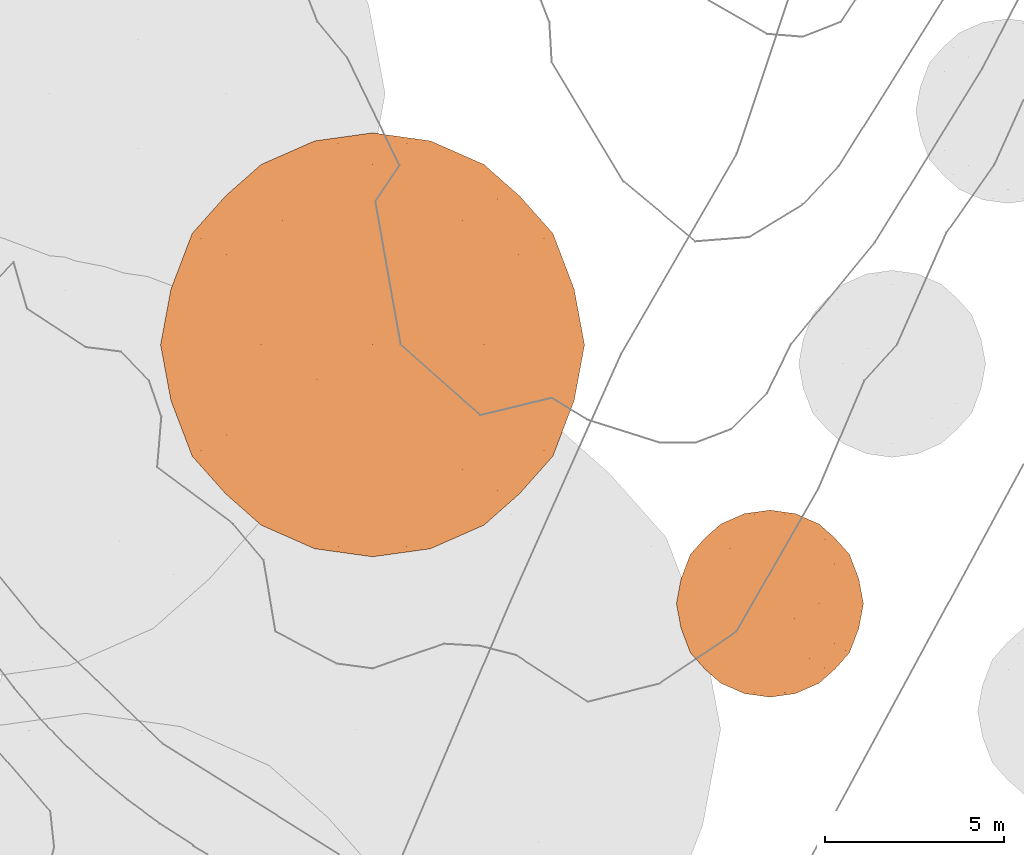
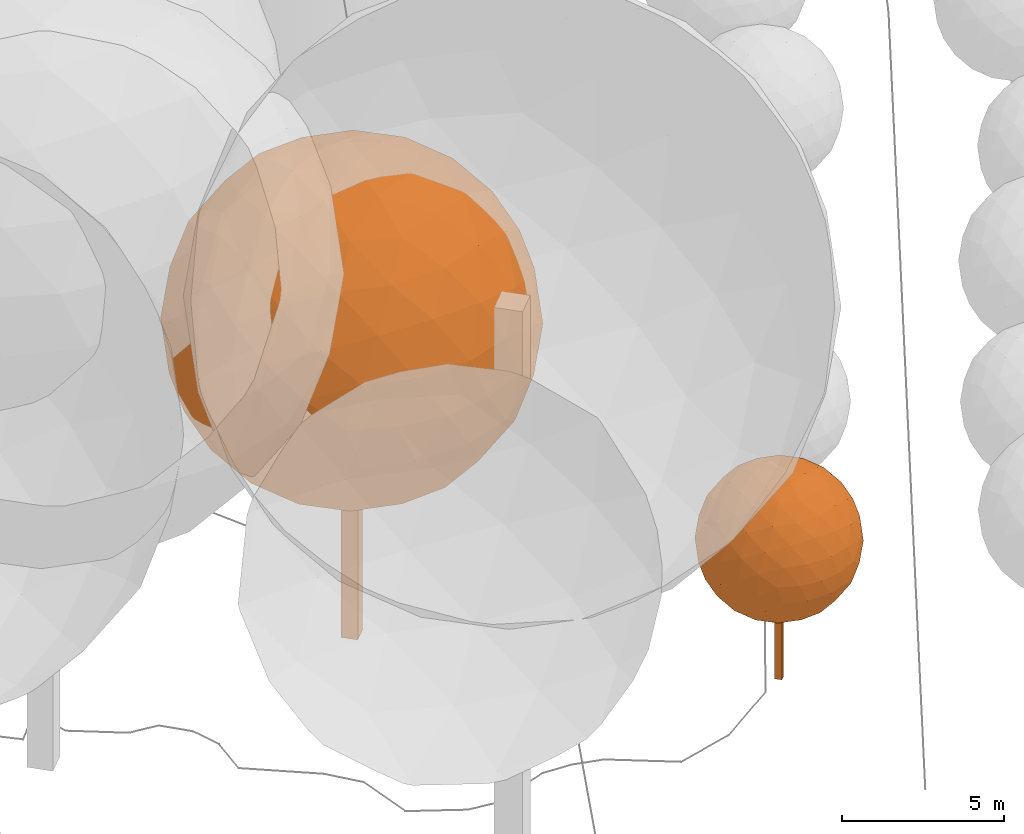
# Not in any storey, part 359 of 494: 2 proxies.
"""IFC2X3 model written with IfcOpenShell, lengths in metres."""

from ifc_helpers import new_model, si_unit, frame, origin_with_axes, place, context, subcontext, project, faceted_brep, element, save


model = new_model("IFC2X3")

# Units and contexts
model_context = context("Model", 3, precision=1e-05, world=origin_with_axes())
body_context = subcontext(model_context, "Body", "Model", "MODEL_VIEW")
ifc_project = project(units=[si_unit("AREAUNIT", "SQUARE_METRE"), si_unit("LENGTHUNIT", "METRE")], contexts=[model_context])

# Proxies
proxy_1_placement = place(None, frame((254.7557320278, 208.9557367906, 538.7556913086), z_axis=(0.0, 0.0, 1.0), x_axis=(1.0, 0.0, 0.0)))
element("IfcBuildingElementProxy", 1, at=proxy_1_placement, Name="Tree TR1 CD52", ObjectType="NOTDEFINED", context=body_context, shape_type="Brep", body=[
    faceted_brep([(0.0, 0.1659572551, 0.0), (0.1659572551, 0.0, 0.0), (0.0, -0.1659572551, 0.0), (-0.1659572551, 0.0, 0.0), (0.0, -0.1659572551, 5.2137009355), (0.1659572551, 0.0, 5.2137009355), (0.0, 0.1659572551, 5.2137009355), (-0.1659572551, 0.0, 5.2137009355)], [[[0, 1, 2]], [[2, 3, 0]], [[4, 5, 6]], [[6, 7, 4]], [[4, 7, 2]], [[2, 7, 3]], [[7, 6, 3]], [[3, 6, 0]], [[5, 4, 1]], [[1, 4, 2]], [[6, 5, 0]], [[0, 5, 1]]]),
    faceted_brep([(-1.3705023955, 2.2175194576, 5.2137009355), (-1.8085819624, 1.8301301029, 5.6324185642), (-1.1310826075, 2.2488477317, 5.8912002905), (-2.1089863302, 1.3034252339, 6.0192620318), (-1.5322682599, 1.7940109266, 6.3224606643), (-0.8055610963, 2.1089863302, 6.5171261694), (-2.2488477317, 0.677499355, 6.344783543), (-1.7940109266, 1.1087597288, 6.7459691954), (-2.2175194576, 0.0, 6.584203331), (-1.8301301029, 0.4187176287, 7.0222828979), (-1.3034252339, 0.8055610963, 7.3226872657), (-1.1087597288, 1.5322682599, 7.0077118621), (-0.4187176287, 1.8085819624, 7.0438310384), (-0.677499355, 1.1310826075, 7.4625486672), (0.0, 1.3705023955, 7.4312203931), (-0.7123649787, 2.5076294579, 5.2137009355), (-0.4235085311, 2.4792621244, 5.8989521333), (0.0, 2.6068504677, 5.2137009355), (0.0, 2.2175194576, 6.584203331), (0.4187176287, 1.8085819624, 7.0438310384), (0.8055610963, 2.1089863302, 6.5171261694), (0.4235085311, 2.4792621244, 5.8989521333), (0.7123649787, 2.5076294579, 5.2137009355), (1.1310826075, 2.2488477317, 5.8912002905), (1.3705023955, 2.2175194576, 5.2137009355), (-1.1310826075, 2.2488477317, 4.5362015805), (-0.4235085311, 2.4792621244, 4.5284497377), (-0.8055610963, 2.1089863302, 3.9102757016), (0.4235085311, 2.4792621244, 4.5284497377), (1.1310826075, 2.2488477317, 4.5362015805), (0.8055610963, 2.1089863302, 3.9102757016), (0.0, 2.2175194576, 3.84319854), (-0.4187176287, 1.8085819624, 3.3835708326), (0.4187176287, 1.8085819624, 3.3835708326), (0.0, 1.3705023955, 2.9961814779), (-1.8085819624, 1.8301301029, 4.7949833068), (-1.5322682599, 1.7940109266, 4.1049412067), (-2.1089863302, 1.3034252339, 4.4081398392), (-1.1087597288, 1.5322682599, 3.4196900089), (-0.677499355, 1.1310826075, 2.9648532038), (-1.3034252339, 0.8055610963, 3.1047146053), (-1.7940109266, 1.1087597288, 3.6814326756), (-2.2488477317, 0.677499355, 4.082618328), (-1.8301301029, 0.4187176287, 3.4051189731), (-2.2175194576, 0.0, 3.84319854), (-2.2175194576, 1.3705023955, 5.2137009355), (-2.4792621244, 0.6852511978, 4.7901924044), (-2.5076294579, 0.0, 4.5013359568), (-2.6068504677, 0.0, 5.2137009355), (-2.4792621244, 0.6852511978, 5.6372094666), (-2.5076294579, 0.0, 5.9260659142), (1.8085819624, 1.8301301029, 5.6324185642), (1.5322682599, 1.7940109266, 6.3224606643), (2.1089863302, 1.3034252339, 6.0192620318), (1.1087597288, 1.5322682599, 7.0077118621), (0.677499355, 1.1310826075, 7.4625486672), (1.3034252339, 0.8055610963, 7.3226872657), (1.7940109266, 1.1087597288, 6.7459691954), (2.2488477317, 0.677499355, 6.344783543), (1.8301301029, 0.4187176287, 7.0222828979), (2.2175194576, 0.0, 6.584203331), (0.0, 0.7123649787, 7.7213303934), (-0.6852511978, 0.4235085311, 7.6929630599), (0.0, 0.0, 7.8205514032), (-1.3705023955, 0.0, 7.4312203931), (-1.8301301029, -0.4187176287, 7.0222828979), (-1.3034252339, -0.8055610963, 7.3226872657), (-0.6852511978, -0.4235085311, 7.6929630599), (0.0, -0.7123649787, 7.7213303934), (-0.677499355, -1.1310826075, 7.4625486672), (0.0, -1.3705023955, 7.4312203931), (-2.2488477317, -0.677499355, 6.344783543), (-2.4792621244, -0.6852511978, 5.6372094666), (-2.1089863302, -1.3034252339, 6.0192620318), (-2.4792621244, -0.6852511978, 4.7901924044), (-2.2488477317, -0.677499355, 4.082618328), (-2.1089863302, -1.3034252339, 4.4081398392), (-2.2175194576, -1.3705023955, 5.2137009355), (-1.8085819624, -1.8301301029, 5.6324185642), (-1.8085819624, -1.8301301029, 4.7949833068), (-1.3705023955, -2.2175194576, 5.2137009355), (-1.8301301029, -0.4187176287, 3.4051189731), (-1.3705023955, 0.0, 2.9961814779), (-1.3034252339, -0.8055610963, 3.1047146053), (-0.6852511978, 0.4235085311, 2.7344388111), (0.0, 0.7123649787, 2.7060714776), (0.0, 0.0, 2.6068504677), (-0.6852511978, -0.4235085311, 2.7344388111), (-0.677499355, -1.1310826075, 2.9648532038), (0.0, -0.7123649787, 2.7060714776), (0.0, -1.3705023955, 2.9961814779), (0.677499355, 1.1310826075, 2.9648532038), (1.1087597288, 1.5322682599, 3.4196900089), (1.3034252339, 0.8055610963, 3.1047146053), (1.5322682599, 1.7940109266, 4.1049412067), (1.8085819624, 1.8301301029, 4.7949833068), (2.1089863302, 1.3034252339, 4.4081398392), (1.7940109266, 1.1087597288, 3.6814326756), (1.8301301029, 0.4187176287, 3.4051189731), (2.2488477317, 0.677499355, 4.082618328), (2.2175194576, 0.0, 3.84319854), (1.3705023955, -2.2175194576, 5.2137009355), (1.8085819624, -1.8301301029, 5.6324185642), (1.1310826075, -2.2488477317, 5.8912002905), (2.1089863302, -1.3034252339, 6.0192620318), (1.5322682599, -1.7940109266, 6.3224606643), (0.8055610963, -2.1089863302, 6.5171261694), (2.2488477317, -0.677499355, 6.344783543), (1.7940109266, -1.1087597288, 6.7459691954), (1.8301301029, -0.4187176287, 7.0222828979), (1.3034252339, -0.8055610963, 7.3226872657), (1.1087597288, -1.5322682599, 7.0077118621), (0.4187176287, -1.8085819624, 7.0438310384), (0.677499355, -1.1310826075, 7.4625486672), (0.7123649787, -2.5076294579, 5.2137009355), (0.4235085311, -2.4792621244, 5.8989521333), (0.0, -2.6068504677, 5.2137009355), (0.0, -2.2175194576, 6.584203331), (-0.4187176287, -1.8085819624, 7.0438310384), (-0.8055610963, -2.1089863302, 6.5171261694), (-0.4235085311, -2.4792621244, 5.8989521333), (-0.7123649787, -2.5076294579, 5.2137009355), (-1.1310826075, -2.2488477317, 5.8912002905), (1.1310826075, -2.2488477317, 4.5362015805), (0.4235085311, -2.4792621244, 4.5284497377), (0.8055610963, -2.1089863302, 3.9102757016), (-0.4235085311, -2.4792621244, 4.5284497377), (-1.1310826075, -2.2488477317, 4.5362015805), (-0.8055610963, -2.1089863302, 3.9102757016), (0.0, -2.2175194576, 3.84319854), (0.4187176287, -1.8085819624, 3.3835708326), (-0.4187176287, -1.8085819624, 3.3835708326), (1.8085819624, -1.8301301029, 4.7949833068), (1.5322682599, -1.7940109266, 4.1049412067), (2.1089863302, -1.3034252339, 4.4081398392), (1.1087597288, -1.5322682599, 3.4196900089), (0.677499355, -1.1310826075, 2.9648532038), (1.3034252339, -0.8055610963, 3.1047146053), (1.7940109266, -1.1087597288, 3.6814326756), (2.2488477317, -0.677499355, 4.082618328), (1.8301301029, -0.4187176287, 3.4051189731), (2.2175194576, -1.3705023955, 5.2137009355), (2.4792621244, -0.6852511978, 4.7901924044), (2.5076294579, 0.0, 4.5013359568), (2.6068504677, 0.0, 5.2137009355), (2.4792621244, -0.6852511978, 5.6372094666), (2.5076294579, 0.0, 5.9260659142), (0.6852511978, -0.4235085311, 7.6929630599), (1.3705023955, 0.0, 7.4312203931), (0.6852511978, 0.4235085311, 7.6929630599), (-1.5322682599, -1.7940109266, 6.3224606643), (-1.1087597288, -1.5322682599, 7.0077118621), (-1.7940109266, -1.1087597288, 6.7459691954), (-1.1087597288, -1.5322682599, 3.4196900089), (-1.5322682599, -1.7940109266, 4.1049412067), (-1.7940109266, -1.1087597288, 3.6814326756), (1.3705023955, 0.0, 2.9961814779), (0.6852511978, -0.4235085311, 2.7344388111), (0.6852511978, 0.4235085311, 2.7344388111), (2.4792621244, 0.6852511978, 5.6372094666), (2.4792621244, 0.6852511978, 4.7901924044), (2.2175194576, 1.3705023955, 5.2137009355)], [[[0, 1, 2]], [[1, 3, 4]], [[2, 4, 5]], [[1, 4, 2]], [[3, 6, 7]], [[6, 8, 9]], [[7, 9, 10]], [[6, 9, 7]], [[5, 11, 12]], [[11, 10, 13]], [[12, 13, 14]], [[11, 13, 12]], [[3, 7, 4]], [[7, 10, 11]], [[4, 11, 5]], [[7, 11, 4]], [[0, 2, 15]], [[2, 5, 16]], [[15, 16, 17]], [[2, 16, 15]], [[5, 12, 18]], [[12, 14, 19]], [[18, 19, 20]], [[12, 19, 18]], [[17, 21, 22]], [[21, 20, 23]], [[22, 23, 24]], [[21, 23, 22]], [[5, 18, 16]], [[18, 20, 21]], [[16, 21, 17]], [[18, 21, 16]], [[0, 15, 25]], [[15, 17, 26]], [[25, 26, 27]], [[15, 26, 25]], [[17, 22, 28]], [[22, 24, 29]], [[28, 29, 30]], [[22, 29, 28]], [[27, 31, 32]], [[31, 30, 33]], [[32, 33, 34]], [[31, 33, 32]], [[17, 28, 26]], [[28, 30, 31]], [[26, 31, 27]], [[28, 31, 26]], [[0, 25, 35]], [[25, 27, 36]], [[35, 36, 37]], [[25, 36, 35]], [[27, 32, 38]], [[32, 34, 39]], [[38, 39, 40]], [[32, 39, 38]], [[37, 41, 42]], [[41, 40, 43]], [[42, 43, 44]], [[41, 43, 42]], [[27, 38, 36]], [[38, 40, 41]], [[36, 41, 37]], [[38, 41, 36]], [[0, 35, 1]], [[35, 37, 45]], [[1, 45, 3]], [[35, 45, 1]], [[37, 42, 46]], [[42, 44, 47]], [[46, 47, 48]], [[42, 47, 46]], [[3, 49, 6]], [[49, 48, 50]], [[6, 50, 8]], [[49, 50, 6]], [[37, 46, 45]], [[46, 48, 49]], [[45, 49, 3]], [[46, 49, 45]], [[24, 23, 51]], [[23, 20, 52]], [[51, 52, 53]], [[23, 52, 51]], [[20, 19, 54]], [[19, 14, 55]], [[54, 55, 56]], [[19, 55, 54]], [[53, 57, 58]], [[57, 56, 59]], [[58, 59, 60]], [[57, 59, 58]], [[20, 54, 52]], [[54, 56, 57]], [[52, 57, 53]], [[54, 57, 52]], [[14, 13, 61]], [[13, 10, 62]], [[61, 62, 63]], [[13, 62, 61]], [[10, 9, 64]], [[9, 8, 65]], [[64, 65, 66]], [[9, 65, 64]], [[63, 67, 68]], [[67, 66, 69]], [[68, 69, 70]], [[67, 69, 68]], [[10, 64, 62]], [[64, 66, 67]], [[62, 67, 63]], [[64, 67, 62]], [[8, 50, 71]], [[50, 48, 72]], [[71, 72, 73]], [[50, 72, 71]], [[48, 47, 74]], [[47, 44, 75]], [[74, 75, 76]], [[47, 75, 74]], [[73, 77, 78]], [[77, 76, 79]], [[78, 79, 80]], [[77, 79, 78]], [[48, 74, 72]], [[74, 76, 77]], [[72, 77, 73]], [[74, 77, 72]], [[44, 43, 81]], [[43, 40, 82]], [[81, 82, 83]], [[43, 82, 81]], [[40, 39, 84]], [[39, 34, 85]], [[84, 85, 86]], [[39, 85, 84]], [[83, 87, 88]], [[87, 86, 89]], [[88, 89, 90]], [[87, 89, 88]], [[40, 84, 82]], [[84, 86, 87]], [[82, 87, 83]], [[84, 87, 82]], [[34, 33, 91]], [[33, 30, 92]], [[91, 92, 93]], [[33, 92, 91]], [[30, 29, 94]], [[29, 24, 95]], [[94, 95, 96]], [[29, 95, 94]], [[93, 97, 98]], [[97, 96, 99]], [[98, 99, 100]], [[97, 99, 98]], [[30, 94, 92]], [[94, 96, 97]], [[92, 97, 93]], [[94, 97, 92]], [[101, 102, 103]], [[102, 104, 105]], [[103, 105, 106]], [[102, 105, 103]], [[104, 107, 108]], [[107, 60, 109]], [[108, 109, 110]], [[107, 109, 108]], [[106, 111, 112]], [[111, 110, 113]], [[112, 113, 70]], [[111, 113, 112]], [[104, 108, 105]], [[108, 110, 111]], [[105, 111, 106]], [[108, 111, 105]], [[101, 103, 114]], [[103, 106, 115]], [[114, 115, 116]], [[103, 115, 114]], [[106, 112, 117]], [[112, 70, 118]], [[117, 118, 119]], [[112, 118, 117]], [[116, 120, 121]], [[120, 119, 122]], [[121, 122, 80]], [[120, 122, 121]], [[106, 117, 115]], [[117, 119, 120]], [[115, 120, 116]], [[117, 120, 115]], [[101, 114, 123]], [[114, 116, 124]], [[123, 124, 125]], [[114, 124, 123]], [[116, 121, 126]], [[121, 80, 127]], [[126, 127, 128]], [[121, 127, 126]], [[125, 129, 130]], [[129, 128, 131]], [[130, 131, 90]], [[129, 131, 130]], [[116, 126, 124]], [[126, 128, 129]], [[124, 129, 125]], [[126, 129, 124]], [[101, 123, 132]], [[123, 125, 133]], [[132, 133, 134]], [[123, 133, 132]], [[125, 130, 135]], [[130, 90, 136]], [[135, 136, 137]], [[130, 136, 135]], [[134, 138, 139]], [[138, 137, 140]], [[139, 140, 100]], [[138, 140, 139]], [[125, 135, 133]], [[135, 137, 138]], [[133, 138, 134]], [[135, 138, 133]], [[101, 132, 102]], [[132, 134, 141]], [[102, 141, 104]], [[132, 141, 102]], [[134, 139, 142]], [[139, 100, 143]], [[142, 143, 144]], [[139, 143, 142]], [[104, 145, 107]], [[145, 144, 146]], [[107, 146, 60]], [[145, 146, 107]], [[134, 142, 141]], [[142, 144, 145]], [[141, 145, 104]], [[142, 145, 141]], [[70, 113, 68]], [[113, 110, 147]], [[68, 147, 63]], [[113, 147, 68]], [[110, 109, 148]], [[109, 60, 59]], [[148, 59, 56]], [[109, 59, 148]], [[63, 149, 61]], [[149, 56, 55]], [[61, 55, 14]], [[149, 55, 61]], [[110, 148, 147]], [[148, 56, 149]], [[147, 149, 63]], [[148, 149, 147]], [[80, 122, 78]], [[122, 119, 150]], [[78, 150, 73]], [[122, 150, 78]], [[119, 118, 151]], [[118, 70, 69]], [[151, 69, 66]], [[118, 69, 151]], [[73, 152, 71]], [[152, 66, 65]], [[71, 65, 8]], [[152, 65, 71]], [[119, 151, 150]], [[151, 66, 152]], [[150, 152, 73]], [[151, 152, 150]], [[90, 131, 88]], [[131, 128, 153]], [[88, 153, 83]], [[131, 153, 88]], [[128, 127, 154]], [[127, 80, 79]], [[154, 79, 76]], [[127, 79, 154]], [[83, 155, 81]], [[155, 76, 75]], [[81, 75, 44]], [[155, 75, 81]], [[128, 154, 153]], [[154, 76, 155]], [[153, 155, 83]], [[154, 155, 153]], [[100, 140, 98]], [[140, 137, 156]], [[98, 156, 93]], [[140, 156, 98]], [[137, 136, 157]], [[136, 90, 89]], [[157, 89, 86]], [[136, 89, 157]], [[93, 158, 91]], [[158, 86, 85]], [[91, 85, 34]], [[158, 85, 91]], [[137, 157, 156]], [[157, 86, 158]], [[156, 158, 93]], [[157, 158, 156]], [[60, 146, 58]], [[146, 144, 159]], [[58, 159, 53]], [[146, 159, 58]], [[144, 143, 160]], [[143, 100, 99]], [[160, 99, 96]], [[143, 99, 160]], [[53, 161, 51]], [[161, 96, 95]], [[51, 95, 24]], [[161, 95, 51]], [[144, 160, 159]], [[160, 96, 161]], [[159, 161, 53]], [[160, 161, 159]]]),
])
proxy_2_placement = place(None, frame((243.6777320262, 216.1707365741, 539.8903988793), z_axis=(0.0, 0.0, 1.0), x_axis=(1.0, 0.0, 0.0)))
element("IfcBuildingElementProxy", 2, at=proxy_2_placement, Name="Tree TR3 CD118", ObjectType="NOTDEFINED", context=body_context, shape_type="Brep", body=[
    faceted_brep([(0.0, 0.3762126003, 0.0), (0.3762126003, 0.0, 0.0), (0.0, -0.3762126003, 0.0), (-0.3762126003, 0.0, 0.0), (0.0, -0.3762126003, 11.8190674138), (0.3762126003, 0.0, 11.8190674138), (0.0, 0.3762126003, 11.8190674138), (-0.3762126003, 0.0, 11.8190674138)], [[[0, 1, 2]], [[2, 3, 0]], [[4, 5, 6]], [[6, 7, 4]], [[4, 7, 2]], [[2, 7, 3]], [[7, 6, 3]], [[3, 6, 0]], [[5, 4, 1]], [[1, 4, 2]], [[6, 5, 0]], [[0, 5, 1]]]),
    faceted_brep([(-3.1068257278, 5.0269496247, 11.8190674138), (-4.0999191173, 4.1487671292, 12.7682687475), (-2.5640790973, 5.0979684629, 13.3549074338), (-4.7809131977, 2.9547668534, 13.645213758), (-3.4735367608, 4.0668876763, 14.3325422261), (-1.8261463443, 4.7809131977, 14.7738342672), (-5.0979684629, 1.5358400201, 14.383146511), (-4.0668876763, 2.5134748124, 15.2926041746), (-5.0269496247, 0.0, 14.9258931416), (-4.1487671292, 0.9492013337, 15.9189865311), (-2.9547668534, 1.8261463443, 16.5999806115), (-2.5134748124, 3.4735367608, 15.8859550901), (-0.9492013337, 4.0999191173, 15.967834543), (-1.5358400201, 2.5640790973, 16.9170358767), (0.0, 3.1068257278, 16.8460170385), (-1.6148777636, 5.6846071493, 11.8190674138), (-0.9600619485, 5.6203005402, 13.3724802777), (0.0, 5.9095337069, 11.8190674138), (0.0, 5.0269496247, 14.9258931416), (0.9492013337, 4.0999191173, 15.967834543), (1.8261463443, 4.7809131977, 14.7738342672), (0.9600619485, 5.6203005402, 13.3724802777), (1.6148777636, 5.6846071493, 11.8190674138), (2.5640790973, 5.0979684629, 13.3549074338), (3.1068257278, 5.0269496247, 11.8190674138), (-2.5640790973, 5.0979684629, 10.2832273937), (-0.9600619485, 5.6203005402, 10.2656545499), (-1.8261463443, 4.7809131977, 8.8643005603), (0.9600619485, 5.6203005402, 10.2656545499), (2.5640790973, 5.0979684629, 10.2832273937), (1.8261463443, 4.7809131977, 8.8643005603), (0.0, 5.0269496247, 8.7122416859), (-0.9492013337, 4.0999191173, 7.6703002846), (0.9492013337, 4.0999191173, 7.6703002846), (0.0, 3.1068257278, 6.792117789), (-4.0999191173, 4.1487671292, 10.8698660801), (-3.4735367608, 4.0668876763, 9.3055926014), (-4.7809131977, 2.9547668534, 9.9929210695), (-2.5134748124, 3.4735367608, 7.7521797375), (-1.5358400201, 2.5640790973, 6.7210989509), (-2.9547668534, 1.8261463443, 7.0381542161), (-4.0668876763, 2.5134748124, 8.3455306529), (-5.0979684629, 1.5358400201, 9.2549883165), (-4.1487671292, 0.9492013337, 7.7191482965), (-5.0269496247, 0.0, 8.7122416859), (-5.0269496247, 3.1068257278, 11.8190674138), (-5.6203005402, 1.5534128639, 10.8590054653), (-5.6846071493, 0.0, 10.2041896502), (-5.9095337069, 0.0, 11.8190674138), (-5.6203005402, 1.5534128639, 12.7791293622), (-5.6846071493, 0.0, 13.4339451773), (4.0999191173, 4.1487671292, 12.7682687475), (3.4735367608, 4.0668876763, 14.3325422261), (4.7809131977, 2.9547668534, 13.645213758), (2.5134748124, 3.4735367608, 15.8859550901), (1.5358400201, 2.5640790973, 16.9170358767), (2.9547668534, 1.8261463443, 16.5999806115), (4.0668876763, 2.5134748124, 15.2926041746), (5.0979684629, 1.5358400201, 14.383146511), (4.1487671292, 0.9492013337, 15.9189865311), (5.0269496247, 0.0, 14.9258931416), (0.0, 1.6148777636, 17.503674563), (-1.5534128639, 0.9600619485, 17.439367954), (0.0, 0.0, 17.7286011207), (-3.1068257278, 0.0, 16.8460170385), (-4.1487671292, -0.9492013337, 15.9189865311), (-2.9547668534, -1.8261463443, 16.5999806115), (-1.5534128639, -0.9600619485, 17.439367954), (0.0, -1.6148777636, 17.503674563), (-1.5358400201, -2.5640790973, 16.9170358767), (0.0, -3.1068257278, 16.8460170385), (-5.0979684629, -1.5358400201, 14.383146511), (-5.6203005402, -1.5534128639, 12.7791293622), (-4.7809131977, -2.9547668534, 13.645213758), (-5.6203005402, -1.5534128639, 10.8590054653), (-5.0979684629, -1.5358400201, 9.2549883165), (-4.7809131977, -2.9547668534, 9.9929210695), (-5.0269496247, -3.1068257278, 11.8190674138), (-4.0999191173, -4.1487671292, 12.7682687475), (-4.0999191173, -4.1487671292, 10.8698660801), (-3.1068257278, -5.0269496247, 11.8190674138), (-4.1487671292, -0.9492013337, 7.7191482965), (-3.1068257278, 0.0, 6.792117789), (-2.9547668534, -1.8261463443, 7.0381542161), (-1.5534128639, 0.9600619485, 6.1987668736), (0.0, 1.6148777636, 6.1344602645), (0.0, 0.0, 5.9095337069), (-1.5534128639, -0.9600619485, 6.1987668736), (-1.5358400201, -2.5640790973, 6.7210989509), (0.0, -1.6148777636, 6.1344602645), (0.0, -3.1068257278, 6.792117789), (1.5358400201, 2.5640790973, 6.7210989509), (2.5134748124, 3.4735367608, 7.7521797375), (2.9547668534, 1.8261463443, 7.0381542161), (3.4735367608, 4.0668876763, 9.3055926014), (4.0999191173, 4.1487671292, 10.8698660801), (4.7809131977, 2.9547668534, 9.9929210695), (4.0668876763, 2.5134748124, 8.3455306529), (4.1487671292, 0.9492013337, 7.7191482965), (5.0979684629, 1.5358400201, 9.2549883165), (5.0269496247, 0.0, 8.7122416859), (3.1068257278, -5.0269496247, 11.8190674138), (4.0999191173, -4.1487671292, 12.7682687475), (2.5640790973, -5.0979684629, 13.3549074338), (4.7809131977, -2.9547668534, 13.645213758), (3.4735367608, -4.0668876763, 14.3325422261), (1.8261463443, -4.7809131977, 14.7738342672), (5.0979684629, -1.5358400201, 14.383146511), (4.0668876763, -2.5134748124, 15.2926041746), (4.1487671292, -0.9492013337, 15.9189865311), (2.9547668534, -1.8261463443, 16.5999806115), (2.5134748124, -3.4735367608, 15.8859550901), (0.9492013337, -4.0999191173, 15.967834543), (1.5358400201, -2.5640790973, 16.9170358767), (1.6148777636, -5.6846071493, 11.8190674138), (0.9600619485, -5.6203005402, 13.3724802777), (0.0, -5.9095337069, 11.8190674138), (0.0, -5.0269496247, 14.9258931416), (-0.9492013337, -4.0999191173, 15.967834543), (-1.8261463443, -4.7809131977, 14.7738342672), (-0.9600619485, -5.6203005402, 13.3724802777), (-1.6148777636, -5.6846071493, 11.8190674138), (-2.5640790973, -5.0979684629, 13.3549074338), (2.5640790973, -5.0979684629, 10.2832273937), (0.9600619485, -5.6203005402, 10.2656545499), (1.8261463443, -4.7809131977, 8.8643005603), (-0.9600619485, -5.6203005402, 10.2656545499), (-2.5640790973, -5.0979684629, 10.2832273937), (-1.8261463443, -4.7809131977, 8.8643005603), (0.0, -5.0269496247, 8.7122416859), (0.9492013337, -4.0999191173, 7.6703002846), (-0.9492013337, -4.0999191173, 7.6703002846), (4.0999191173, -4.1487671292, 10.8698660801), (3.4735367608, -4.0668876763, 9.3055926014), (4.7809131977, -2.9547668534, 9.9929210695), (2.5134748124, -3.4735367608, 7.7521797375), (1.5358400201, -2.5640790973, 6.7210989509), (2.9547668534, -1.8261463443, 7.0381542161), (4.0668876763, -2.5134748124, 8.3455306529), (5.0979684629, -1.5358400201, 9.2549883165), (4.1487671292, -0.9492013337, 7.7191482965), (5.0269496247, -3.1068257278, 11.8190674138), (5.6203005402, -1.5534128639, 10.8590054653), (5.6846071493, 0.0, 10.2041896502), (5.9095337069, 0.0, 11.8190674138), (5.6203005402, -1.5534128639, 12.7791293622), (5.6846071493, 0.0, 13.4339451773), (1.5534128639, -0.9600619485, 17.439367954), (3.1068257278, 0.0, 16.8460170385), (1.5534128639, 0.9600619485, 17.439367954), (-3.4735367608, -4.0668876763, 14.3325422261), (-2.5134748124, -3.4735367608, 15.8859550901), (-4.0668876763, -2.5134748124, 15.2926041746), (-2.5134748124, -3.4735367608, 7.7521797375), (-3.4735367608, -4.0668876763, 9.3055926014), (-4.0668876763, -2.5134748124, 8.3455306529), (3.1068257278, 0.0, 6.792117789), (1.5534128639, -0.9600619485, 6.1987668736), (1.5534128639, 0.9600619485, 6.1987668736), (5.6203005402, 1.5534128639, 12.7791293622), (5.6203005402, 1.5534128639, 10.8590054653), (5.0269496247, 3.1068257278, 11.8190674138)], [[[0, 1, 2]], [[1, 3, 4]], [[2, 4, 5]], [[1, 4, 2]], [[3, 6, 7]], [[6, 8, 9]], [[7, 9, 10]], [[6, 9, 7]], [[5, 11, 12]], [[11, 10, 13]], [[12, 13, 14]], [[11, 13, 12]], [[3, 7, 4]], [[7, 10, 11]], [[4, 11, 5]], [[7, 11, 4]], [[0, 2, 15]], [[2, 5, 16]], [[15, 16, 17]], [[2, 16, 15]], [[5, 12, 18]], [[12, 14, 19]], [[18, 19, 20]], [[12, 19, 18]], [[17, 21, 22]], [[21, 20, 23]], [[22, 23, 24]], [[21, 23, 22]], [[5, 18, 16]], [[18, 20, 21]], [[16, 21, 17]], [[18, 21, 16]], [[0, 15, 25]], [[15, 17, 26]], [[25, 26, 27]], [[15, 26, 25]], [[17, 22, 28]], [[22, 24, 29]], [[28, 29, 30]], [[22, 29, 28]], [[27, 31, 32]], [[31, 30, 33]], [[32, 33, 34]], [[31, 33, 32]], [[17, 28, 26]], [[28, 30, 31]], [[26, 31, 27]], [[28, 31, 26]], [[0, 25, 35]], [[25, 27, 36]], [[35, 36, 37]], [[25, 36, 35]], [[27, 32, 38]], [[32, 34, 39]], [[38, 39, 40]], [[32, 39, 38]], [[37, 41, 42]], [[41, 40, 43]], [[42, 43, 44]], [[41, 43, 42]], [[27, 38, 36]], [[38, 40, 41]], [[36, 41, 37]], [[38, 41, 36]], [[0, 35, 1]], [[35, 37, 45]], [[1, 45, 3]], [[35, 45, 1]], [[37, 42, 46]], [[42, 44, 47]], [[46, 47, 48]], [[42, 47, 46]], [[3, 49, 6]], [[49, 48, 50]], [[6, 50, 8]], [[49, 50, 6]], [[37, 46, 45]], [[46, 48, 49]], [[45, 49, 3]], [[46, 49, 45]], [[24, 23, 51]], [[23, 20, 52]], [[51, 52, 53]], [[23, 52, 51]], [[20, 19, 54]], [[19, 14, 55]], [[54, 55, 56]], [[19, 55, 54]], [[53, 57, 58]], [[57, 56, 59]], [[58, 59, 60]], [[57, 59, 58]], [[20, 54, 52]], [[54, 56, 57]], [[52, 57, 53]], [[54, 57, 52]], [[14, 13, 61]], [[13, 10, 62]], [[61, 62, 63]], [[13, 62, 61]], [[10, 9, 64]], [[9, 8, 65]], [[64, 65, 66]], [[9, 65, 64]], [[63, 67, 68]], [[67, 66, 69]], [[68, 69, 70]], [[67, 69, 68]], [[10, 64, 62]], [[64, 66, 67]], [[62, 67, 63]], [[64, 67, 62]], [[8, 50, 71]], [[50, 48, 72]], [[71, 72, 73]], [[50, 72, 71]], [[48, 47, 74]], [[47, 44, 75]], [[74, 75, 76]], [[47, 75, 74]], [[73, 77, 78]], [[77, 76, 79]], [[78, 79, 80]], [[77, 79, 78]], [[48, 74, 72]], [[74, 76, 77]], [[72, 77, 73]], [[74, 77, 72]], [[44, 43, 81]], [[43, 40, 82]], [[81, 82, 83]], [[43, 82, 81]], [[40, 39, 84]], [[39, 34, 85]], [[84, 85, 86]], [[39, 85, 84]], [[83, 87, 88]], [[87, 86, 89]], [[88, 89, 90]], [[87, 89, 88]], [[40, 84, 82]], [[84, 86, 87]], [[82, 87, 83]], [[84, 87, 82]], [[34, 33, 91]], [[33, 30, 92]], [[91, 92, 93]], [[33, 92, 91]], [[30, 29, 94]], [[29, 24, 95]], [[94, 95, 96]], [[29, 95, 94]], [[93, 97, 98]], [[97, 96, 99]], [[98, 99, 100]], [[97, 99, 98]], [[30, 94, 92]], [[94, 96, 97]], [[92, 97, 93]], [[94, 97, 92]], [[101, 102, 103]], [[102, 104, 105]], [[103, 105, 106]], [[102, 105, 103]], [[104, 107, 108]], [[107, 60, 109]], [[108, 109, 110]], [[107, 109, 108]], [[106, 111, 112]], [[111, 110, 113]], [[112, 113, 70]], [[111, 113, 112]], [[104, 108, 105]], [[108, 110, 111]], [[105, 111, 106]], [[108, 111, 105]], [[101, 103, 114]], [[103, 106, 115]], [[114, 115, 116]], [[103, 115, 114]], [[106, 112, 117]], [[112, 70, 118]], [[117, 118, 119]], [[112, 118, 117]], [[116, 120, 121]], [[120, 119, 122]], [[121, 122, 80]], [[120, 122, 121]], [[106, 117, 115]], [[117, 119, 120]], [[115, 120, 116]], [[117, 120, 115]], [[101, 114, 123]], [[114, 116, 124]], [[123, 124, 125]], [[114, 124, 123]], [[116, 121, 126]], [[121, 80, 127]], [[126, 127, 128]], [[121, 127, 126]], [[125, 129, 130]], [[129, 128, 131]], [[130, 131, 90]], [[129, 131, 130]], [[116, 126, 124]], [[126, 128, 129]], [[124, 129, 125]], [[126, 129, 124]], [[101, 123, 132]], [[123, 125, 133]], [[132, 133, 134]], [[123, 133, 132]], [[125, 130, 135]], [[130, 90, 136]], [[135, 136, 137]], [[130, 136, 135]], [[134, 138, 139]], [[138, 137, 140]], [[139, 140, 100]], [[138, 140, 139]], [[125, 135, 133]], [[135, 137, 138]], [[133, 138, 134]], [[135, 138, 133]], [[101, 132, 102]], [[132, 134, 141]], [[102, 141, 104]], [[132, 141, 102]], [[134, 139, 142]], [[139, 100, 143]], [[142, 143, 144]], [[139, 143, 142]], [[104, 145, 107]], [[145, 144, 146]], [[107, 146, 60]], [[145, 146, 107]], [[134, 142, 141]], [[142, 144, 145]], [[141, 145, 104]], [[142, 145, 141]], [[70, 113, 68]], [[113, 110, 147]], [[68, 147, 63]], [[113, 147, 68]], [[110, 109, 148]], [[109, 60, 59]], [[148, 59, 56]], [[109, 59, 148]], [[63, 149, 61]], [[149, 56, 55]], [[61, 55, 14]], [[149, 55, 61]], [[110, 148, 147]], [[148, 56, 149]], [[147, 149, 63]], [[148, 149, 147]], [[80, 122, 78]], [[122, 119, 150]], [[78, 150, 73]], [[122, 150, 78]], [[119, 118, 151]], [[118, 70, 69]], [[151, 69, 66]], [[118, 69, 151]], [[73, 152, 71]], [[152, 66, 65]], [[71, 65, 8]], [[152, 65, 71]], [[119, 151, 150]], [[151, 66, 152]], [[150, 152, 73]], [[151, 152, 150]], [[90, 131, 88]], [[131, 128, 153]], [[88, 153, 83]], [[131, 153, 88]], [[128, 127, 154]], [[127, 80, 79]], [[154, 79, 76]], [[127, 79, 154]], [[83, 155, 81]], [[155, 76, 75]], [[81, 75, 44]], [[155, 75, 81]], [[128, 154, 153]], [[154, 76, 155]], [[153, 155, 83]], [[154, 155, 153]], [[100, 140, 98]], [[140, 137, 156]], [[98, 156, 93]], [[140, 156, 98]], [[137, 136, 157]], [[136, 90, 89]], [[157, 89, 86]], [[136, 89, 157]], [[93, 158, 91]], [[158, 86, 85]], [[91, 85, 34]], [[158, 85, 91]], [[137, 157, 156]], [[157, 86, 158]], [[156, 158, 93]], [[157, 158, 156]], [[60, 146, 58]], [[146, 144, 159]], [[58, 159, 53]], [[146, 159, 58]], [[144, 143, 160]], [[143, 100, 99]], [[160, 99, 96]], [[143, 99, 160]], [[53, 161, 51]], [[161, 96, 95]], [[51, 95, 24]], [[161, 95, 51]], [[144, 160, 159]], [[160, 96, 161]], [[159, 161, 53]], [[160, 161, 159]]]),
])

save(model, "model.ifc")
